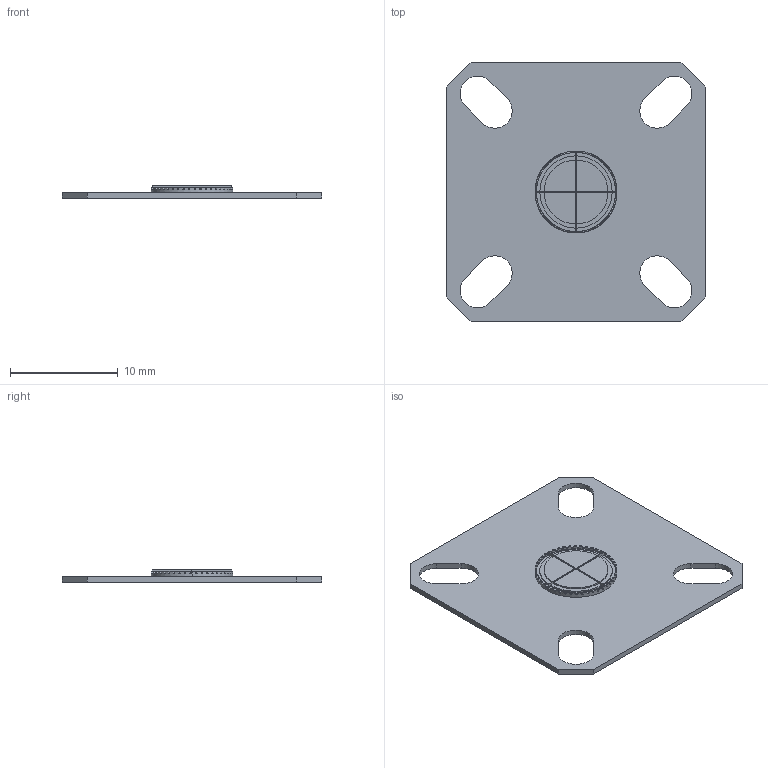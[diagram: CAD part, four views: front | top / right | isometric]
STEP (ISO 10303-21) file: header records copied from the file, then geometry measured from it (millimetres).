
FILE_DESCRIPTION((''),'2;1');
FILE_NAME('PROTO_INSERT_SIM_DUMMY-09','2020-10-15T11:14:05',('ccole'),(''),'CREO PARAMETRIC BY PTC INC, 2019292','CREO PARAMETRIC BY PTC INC, 2019292','');
FILE_SCHEMA(('CONFIG_CONTROL_DESIGN'));
Length unit declared in the file: inch
Products named in the file (1): PROTO_INSERT_SIM_DUMMY-09
Bounding box: 24.08 x 24.08 x 1.14 mm (x, y, z)
Volume: 277.5 mm3; surface area: 1114.7 mm2
Topology: 1 solids, 1 shells, 335 faces, 988 edges, 656 vertices
Faces by surface type: plane 174, cylinder 161
Entity records: 12020 total; most frequent: CARTESIAN_POINT 3807, ORIENTED_EDGE 1976, DIRECTION 1334, EDGE_CURVE 988, VERTEX_POINT 656, AXIS2_PLACEMENT_3D 469, B_SPLINE_CURVE_WITH_KNOTS 458, VECTOR 396
